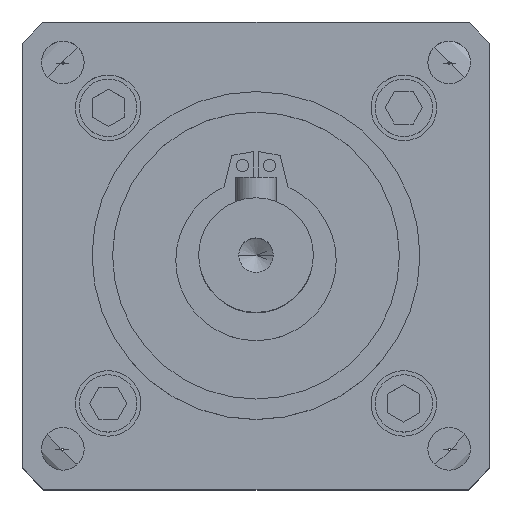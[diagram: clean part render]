
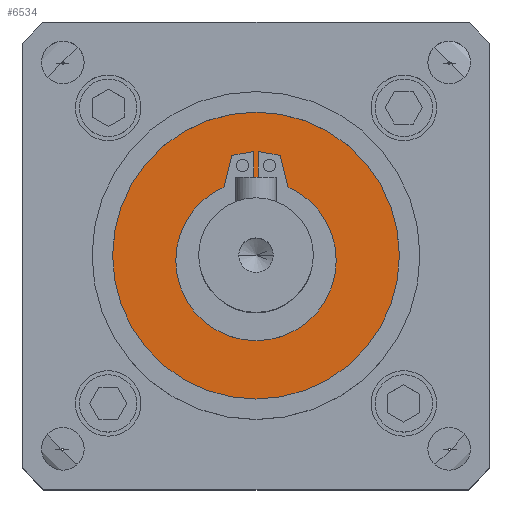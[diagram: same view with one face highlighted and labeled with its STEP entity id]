
A CAD part, top view. The second image highlights one B-rep face of the part: STEP entity #6534.
In plain terms, the highlighted planar face has unit normal (0, 0, 1).
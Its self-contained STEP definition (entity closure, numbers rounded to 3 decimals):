
#48 = VECTOR ( 'NONE', #3780, 1000. ) ;
#68 = CARTESIAN_POINT ( 'NONE',  ( 2.959, 12.216, 55. ) ) ;
#138 = LINE ( 'NONE', #4553, #6813 ) ;
#352 = AXIS2_PLACEMENT_3D ( 'NONE', #4466, #6162, #6654 ) ;
#353 = CARTESIAN_POINT ( 'NONE',  ( -0.3, 9.185, 55. ) ) ;
#358 = ORIENTED_EDGE ( 'NONE', *, *, #2038, .F. ) ;
#400 = AXIS2_PLACEMENT_3D ( 'NONE', #6071, #6036, #1706 ) ;
#444 = EDGE_CURVE ( 'NONE', #4233, #6899, #2910, .T. ) ;
#571 = CARTESIAN_POINT ( 'NONE',  ( 0.3, 12.685, 55. ) ) ;
#580 = DIRECTION ( 'NONE',  ( 0., 0., 1. ) ) ;
#588 = AXIS2_PLACEMENT_3D ( 'NONE', #5524, #580, #5205 ) ;
#594 = LINE ( 'NONE', #6050, #4396 ) ;
#863 = EDGE_CURVE ( 'NONE', #1035, #4097, #138, .T. ) ;
#938 = AXIS2_PLACEMENT_3D ( 'NONE', #1401, #6338, #1434 ) ;
#1011 = ORIENTED_EDGE ( 'NONE', *, *, #863, .F. ) ;
#1035 = VERTEX_POINT ( 'NONE', #353 ) ;
#1080 = LINE ( 'NONE', #3324, #3760 ) ;
#1177 = DIRECTION ( 'NONE',  ( -0.985, -0.174, 0. ) ) ;
#1334 = ORIENTED_EDGE ( 'NONE', *, *, #6900, .F. ) ;
#1401 = CARTESIAN_POINT ( 'NONE',  ( 0., -0.6, 55. ) ) ;
#1432 = EDGE_LOOP ( 'NONE', ( #6132, #5167, #3310, #1011, #6658, #3385, #1833, #1334, #2969, #358 ) ) ;
#1434 = DIRECTION ( 'NONE',  ( 1., 0., 0. ) ) ;
#1566 = VERTEX_POINT ( 'NONE', #571 ) ;
#1623 = CIRCLE ( 'NONE', #352, 17.5 ) ;
#1650 = CARTESIAN_POINT ( 'NONE',  ( -2.959, 12.216, 55. ) ) ;
#1706 = DIRECTION ( 'NONE',  ( -1., 0., 0. ) ) ;
#1737 = EDGE_CURVE ( 'NONE', #5452, #1566, #5267, .T. ) ;
#1832 = DIRECTION ( 'NONE',  ( 0., 0., 1. ) ) ;
#1833 = ORIENTED_EDGE ( 'NONE', *, *, #1737, .F. ) ;
#1936 = EDGE_CURVE ( 'NONE', #6899, #4233, #1623, .T. ) ;
#1965 = VERTEX_POINT ( 'NONE', #5612 ) ;
#2038 = EDGE_CURVE ( 'NONE', #4239, #3877, #3133, .T. ) ;
#2380 = CARTESIAN_POINT ( 'NONE',  ( 0., -0.6, 55. ) ) ;
#2384 = ORIENTED_EDGE ( 'NONE', *, *, #444, .T. ) ;
#2554 = CARTESIAN_POINT ( 'NONE',  ( -2.959, 12.216, 55. ) ) ;
#2608 = CARTESIAN_POINT ( 'NONE',  ( 0.3, 9.185, 55. ) ) ;
#2666 = EDGE_CURVE ( 'NONE', #3877, #1965, #2914, .T. ) ;
#2678 = VERTEX_POINT ( 'NONE', #2554 ) ;
#2868 = EDGE_CURVE ( 'NONE', #4097, #2678, #3921, .T. ) ;
#2910 = CIRCLE ( 'NONE', #588, 17.5 ) ;
#2914 = CIRCLE ( 'NONE', #5542, 9.785 ) ;
#2969 = ORIENTED_EDGE ( 'NONE', *, *, #2666, .F. ) ;
#3029 = VECTOR ( 'NONE', #1177, 1000. ) ;
#3133 = CIRCLE ( 'NONE', #6566, 9.785 ) ;
#3255 = LINE ( 'NONE', #4474, #5018 ) ;
#3310 = ORIENTED_EDGE ( 'NONE', *, *, #2868, .F. ) ;
#3324 = CARTESIAN_POINT ( 'NONE',  ( 0.3, 9.185, 55. ) ) ;
#3385 = ORIENTED_EDGE ( 'NONE', *, *, #6943, .F. ) ;
#3645 = DIRECTION ( 'NONE',  ( 1., 0., 0. ) ) ;
#3712 = CARTESIAN_POINT ( 'NONE',  ( 9.785, -0.6, 55. ) ) ;
#3760 = VECTOR ( 'NONE', #5446, 1000. ) ;
#3774 = DIRECTION ( 'NONE',  ( 0., 0., 1. ) ) ;
#3780 = DIRECTION ( 'NONE',  ( -0.236, -0.972, 0. ) ) ;
#3790 = CARTESIAN_POINT ( 'NONE',  ( 17.5, 0., 55. ) ) ;
#3831 = EDGE_CURVE ( 'NONE', #6845, #4239, #4405, .T. ) ;
#3877 = VERTEX_POINT ( 'NONE', #3712 ) ;
#3921 = LINE ( 'NONE', #6121, #3029 ) ;
#4078 = EDGE_CURVE ( 'NONE', #6723, #1035, #594, .T. ) ;
#4097 = VERTEX_POINT ( 'NONE', #4496 ) ;
#4233 = VERTEX_POINT ( 'NONE', #4946 ) ;
#4239 = VERTEX_POINT ( 'NONE', #6469 ) ;
#4396 = VECTOR ( 'NONE', #6614, 1000. ) ;
#4405 = CIRCLE ( 'NONE', #938, 9.785 ) ;
#4466 = CARTESIAN_POINT ( 'NONE',  ( 0., 0., 55. ) ) ;
#4474 = CARTESIAN_POINT ( 'NONE',  ( 2.959, 12.216, 55. ) ) ;
#4481 = PLANE ( 'NONE',  #400 ) ;
#4496 = CARTESIAN_POINT ( 'NONE',  ( -0.3, 12.685, 55. ) ) ;
#4553 = CARTESIAN_POINT ( 'NONE',  ( -0.3, 9.185, 55. ) ) ;
#4818 = CARTESIAN_POINT ( 'NONE',  ( 0.3, 12.685, 55. ) ) ;
#4946 = CARTESIAN_POINT ( 'NONE',  ( -17.5, 0., 55. ) ) ;
#4983 = FACE_BOUND ( 'NONE', #1432, .T. ) ;
#5018 = VECTOR ( 'NONE', #6661, 1000. ) ;
#5106 = LINE ( 'NONE', #1650, #48 ) ;
#5167 = ORIENTED_EDGE ( 'NONE', *, *, #6175, .F. ) ;
#5205 = DIRECTION ( 'NONE',  ( 1., 0., 0. ) ) ;
#5267 = LINE ( 'NONE', #4818, #6676 ) ;
#5373 = CARTESIAN_POINT ( 'NONE',  ( -3.89, 8.378, 55. ) ) ;
#5446 = DIRECTION ( 'NONE',  ( 0., -1., 0. ) ) ;
#5452 = VERTEX_POINT ( 'NONE', #68 ) ;
#5524 = CARTESIAN_POINT ( 'NONE',  ( 0., 0., 55. ) ) ;
#5542 = AXIS2_PLACEMENT_3D ( 'NONE', #2380, #1832, #3645 ) ;
#5595 = ORIENTED_EDGE ( 'NONE', *, *, #1936, .T. ) ;
#5612 = CARTESIAN_POINT ( 'NONE',  ( 3.89, 8.378, 55. ) ) ;
#6036 = DIRECTION ( 'NONE',  ( 0., 0., -1. ) ) ;
#6050 = CARTESIAN_POINT ( 'NONE',  ( -0.3, 9.185, 55. ) ) ;
#6071 = CARTESIAN_POINT ( 'NONE',  ( 0., 0., 55. ) ) ;
#6114 = CARTESIAN_POINT ( 'NONE',  ( 0., -0.6, 55. ) ) ;
#6121 = CARTESIAN_POINT ( 'NONE',  ( -0.3, 12.685, 55. ) ) ;
#6132 = ORIENTED_EDGE ( 'NONE', *, *, #3831, .F. ) ;
#6162 = DIRECTION ( 'NONE',  ( 0., 0., 1. ) ) ;
#6175 = EDGE_CURVE ( 'NONE', #2678, #6845, #5106, .T. ) ;
#6338 = DIRECTION ( 'NONE',  ( 0., 0., 1. ) ) ;
#6469 = CARTESIAN_POINT ( 'NONE',  ( -9.785, -0.6, 55. ) ) ;
#6534 = ADVANCED_FACE ( 'NONE', ( #4983, #6601 ), #4481, .F. ) ;
#6536 = DIRECTION ( 'NONE',  ( 1., 0., 0. ) ) ;
#6566 = AXIS2_PLACEMENT_3D ( 'NONE', #6114, #3774, #6536 ) ;
#6601 = FACE_OUTER_BOUND ( 'NONE', #7067, .T. ) ;
#6614 = DIRECTION ( 'NONE',  ( -1., 0., 0. ) ) ;
#6654 = DIRECTION ( 'NONE',  ( 1., 0., 0. ) ) ;
#6658 = ORIENTED_EDGE ( 'NONE', *, *, #4078, .F. ) ;
#6661 = DIRECTION ( 'NONE',  ( -0.236, 0.972, 0. ) ) ;
#6676 = VECTOR ( 'NONE', #6964, 1000. ) ;
#6723 = VERTEX_POINT ( 'NONE', #2608 ) ;
#6741 = DIRECTION ( 'NONE',  ( 0., 1., 0. ) ) ;
#6813 = VECTOR ( 'NONE', #6741, 1000. ) ;
#6845 = VERTEX_POINT ( 'NONE', #5373 ) ;
#6899 = VERTEX_POINT ( 'NONE', #3790 ) ;
#6900 = EDGE_CURVE ( 'NONE', #1965, #5452, #3255, .T. ) ;
#6943 = EDGE_CURVE ( 'NONE', #1566, #6723, #1080, .T. ) ;
#6964 = DIRECTION ( 'NONE',  ( -0.985, 0.174, 0. ) ) ;
#7067 = EDGE_LOOP ( 'NONE', ( #2384, #5595 ) ) ;
